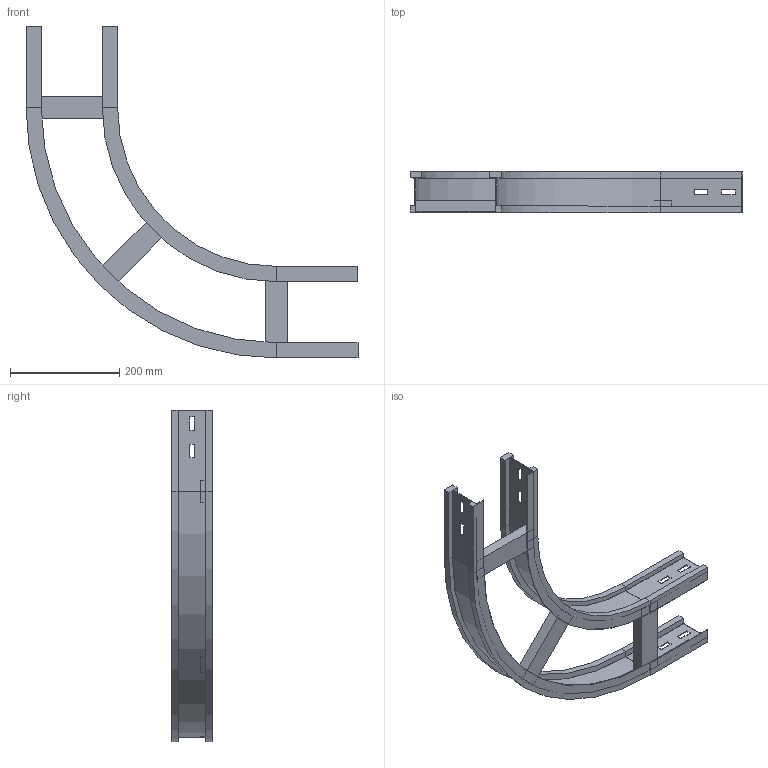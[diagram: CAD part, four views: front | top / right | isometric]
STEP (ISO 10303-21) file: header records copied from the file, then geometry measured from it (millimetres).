
FILE_DESCRIPTION (( 'STEP AP214' ), '1' );
FILE_NAME ('10S3C150.step', '2025-02-21T16:11:05', ( '' ), ( '' ), 'SwSTEP 2.0', 'SolidWorks 2023', '' );
FILE_SCHEMA (( 'AUTOMOTIVE_DESIGN' ));
Length unit declared in the file: millimetre
Products named in the file (4): 10S3C150; TRAVERSINO_150; LONGH.INTERNO 90°_H75_R300; LONGH.ESTERNO 90°_H75_R300+150
Assembly tree (5 placements, depth 2):
  10S3C150
    LONGH.INTERNO 90°_H75_R300
    LONGH.ESTERNO 90°_H75_R300+150
    TRAVERSINO_150  x3
Bounding box: 609 x 75 x 609 mm (x, y, z)
Volume: 1230667.4 mm3; surface area: 496598 mm2
Topology: 5 solids, 5 shells, 126 faces, 300 edges, 184 vertices
Faces by surface type: plane 114, cylinder 12
Entity records: 3389 total; most frequent: CARTESIAN_POINT 566, ORIENTED_EDGE 552, DIRECTION 544, EDGE_CURVE 276, LINE 252, VECTOR 252, VERTEX_POINT 168, AXIS2_PLACEMENT_3D 146
